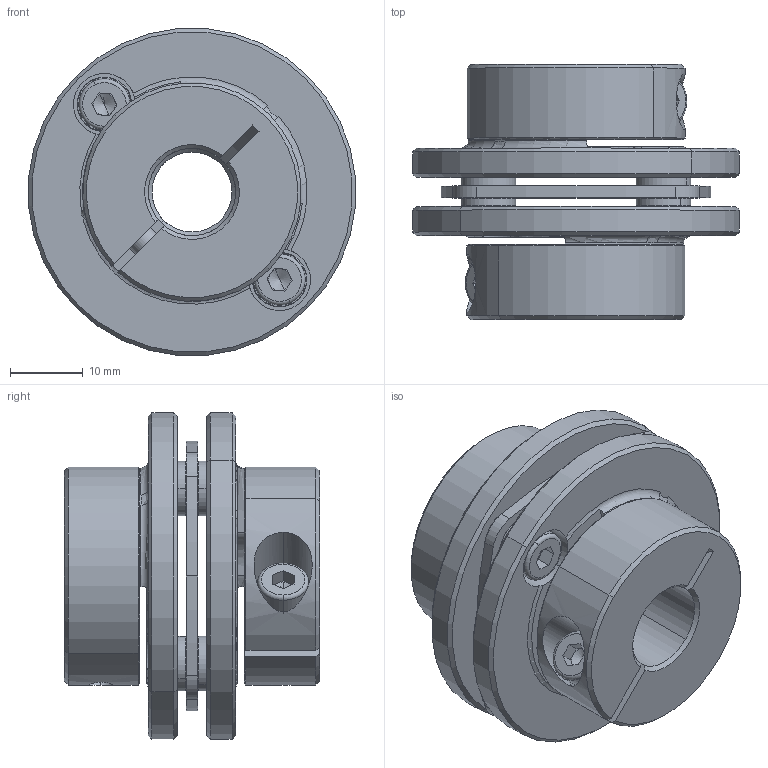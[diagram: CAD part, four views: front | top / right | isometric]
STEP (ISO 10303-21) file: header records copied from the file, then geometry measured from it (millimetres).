
FILE_DESCRIPTION (( 'STEP AP203' ), '1' );
FILE_NAME ('LE1-B-D45L35-11-12.STEP', '2021-11-01T03:07:13', ( '' ), ( '' ), 'SwSTEP 2.0', 'SolidWorks 2018', '' );
FILE_SCHEMA (( 'CONFIG_CONTROL_DESIGN' ));
Length unit declared in the file: millimetre
Products named in the file (1): LE1-B-D45L35-11-12
Bounding box: 44.83 x 35 x 44.83 mm (x, y, z)
Volume: 25346 mm3; surface area: 15791.4 mm2
Topology: 1 solids, 13 shells, 405 faces, 991 edges, 614 vertices
Faces by surface type: plane 136, cylinder 135, cone 114, torus 18, bspline 2
Entity records: 12432 total; most frequent: CARTESIAN_POINT 2479, DIRECTION 2247, ORIENTED_EDGE 1958, EDGE_CURVE 979, AXIS2_PLACEMENT_3D 914, VERTEX_POINT 614, CIRCLE 510, EDGE_LOOP 469
